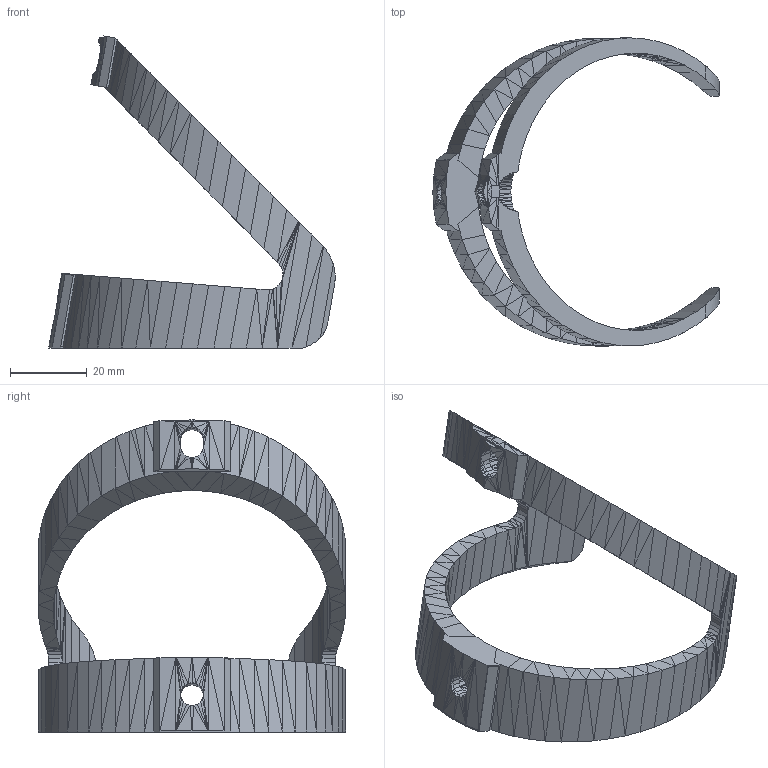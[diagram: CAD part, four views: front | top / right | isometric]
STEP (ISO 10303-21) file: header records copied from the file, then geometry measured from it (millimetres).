
FILE_DESCRIPTION(/* description */ ('STEP AP242 Edition 2','CAx-IF Rec.Pracs.---Representation and Presentation of Product Manufacturing Information (PMI)---4.0---2014-10-13','CAx-IF Rec.Pracs.---3D Tessellated Geometry---0.4---2014-09-14','2;1','CAx-IF Rec.Pracs.---User Defined Attributes---1.5---2016-08-15'),/* implementation_level */ '2;1');
FILE_NAME(/* name */ '69877e26e0e614ade837bc36',/* time_stamp */ '2026-02-07T18:02:15Z',/* author */ (''),/* organization */ (''),/* preprocessor_version */ 'ST-DEVELOPER v20',/* originating_system */ 'ONSHAPE BY PTC INC, 1.210',/* authorisation */ ' ');
FILE_SCHEMA (('AP242_MANAGED_MODEL_BASED_3D_ENGINEERING_MIM_LF { 1 0 10303 442 3 1 4 }'));
Length unit declared in the file: metre
Products named in the file (1): Combined Reinforced Bottle Cage
Bounding box: 74.36 x 80 x 81.06 mm (x, y, z)
Volume: 25238.8 mm3; surface area: 14957.4 mm2
Topology: 1 solids, 1 shells, 1016 faces, 2081 edges, 1061 vertices
Faces by surface type: plane 1009, cylinder 6, bspline 1
Entity records: 25196 total; most frequent: CARTESIAN_POINT 4868, ORIENTED_EDGE 4162, DIRECTION 3947, EDGE_CURVE 2081, LINE 1865, VECTOR 1865, VERTEX_POINT 1061, AXIS2_PLACEMENT_3D 1041
